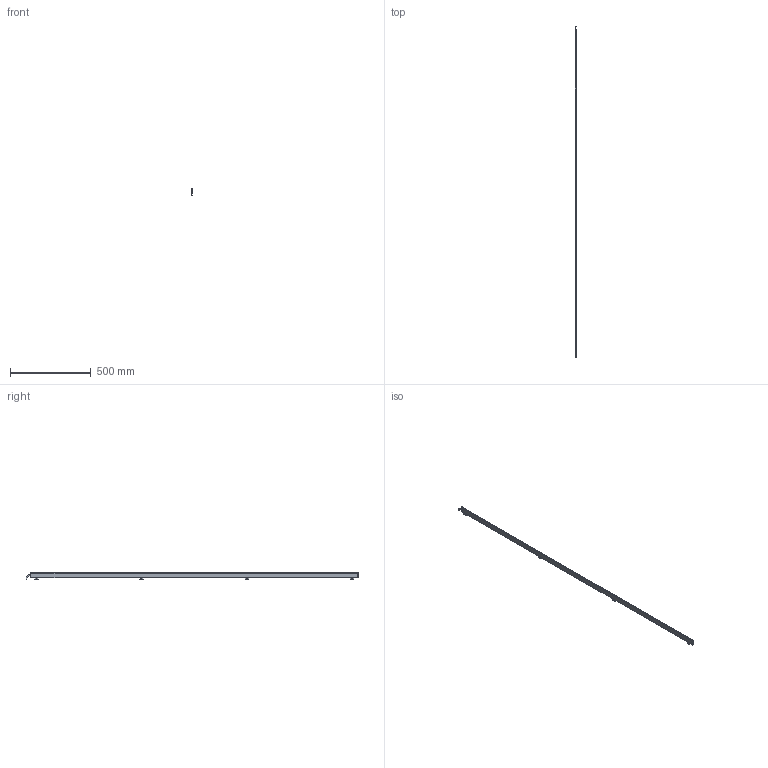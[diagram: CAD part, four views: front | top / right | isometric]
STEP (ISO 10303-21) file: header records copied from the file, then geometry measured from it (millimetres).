
FILE_DESCRIPTION (( 'STEP AP214' ), '1' );
FILE_NAME ('ILG-N-K1-2033mm.STEP', '2017-07-10T13:35:07', ( '' ), ( '' ), 'SwSTEP 2.0', 'SolidWorks 2016', '' );
FILE_SCHEMA (( 'AUTOMOTIVE_DESIGN' ));
Length unit declared in the file: millimetre
Products named in the file (1): ILG-N-K1-2033mm
Bounding box: 10.22 x 2061.25 x 42.41 mm (x, y, z)
Volume: 228781.8 mm3; surface area: 339699.8 mm2
Topology: 13 solids, 13 shells, 573 faces, 1449 edges, 896 vertices
Faces by surface type: plane 329, cylinder 170, cone 64, torus 10
Entity records: 23504 total; most frequent: CARTESIAN_POINT 3067, DIRECTION 2993, ORIENTED_EDGE 2882, EDGE_CURVE 1441, AXIS2_PLACEMENT_3D 1030, LINE 933, VECTOR 933, VERTEX_POINT 896
